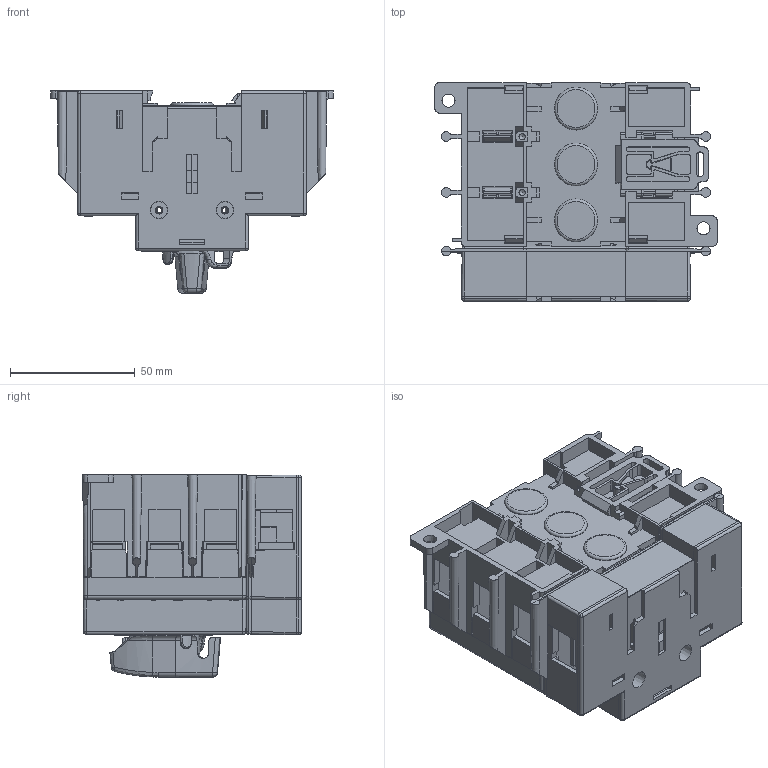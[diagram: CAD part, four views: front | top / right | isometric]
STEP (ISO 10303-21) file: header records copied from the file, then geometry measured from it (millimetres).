
FILE_DESCRIPTION((''),'2;1');
FILE_NAME('Z:\PROGETTI INVENTOR\DIEGO\4 COMMERCIALE - PRODUZIONE - INFORMATIVA\MATERIALE DI COSTRUZIONE\BLOCCHI SOLIDI 2013\BLOCCHI SOLIDI SD3\BLOCCO SD3 4P 2013.stp','2013-02-20T11:11:08',('diego'),(''),'Autodesk Inventor 2013','Autodesk Inventor 2013','');
FILE_SCHEMA(('AUTOMOTIVE_DESIGN { 1 0 10303 214 1 1 1 1 }'));
Length unit declared in the file: millimetre
Products named in the file (1): BLOCCO SD3 4P 2013
Bounding box: 113.2 x 87.55 x 81.05 mm (x, y, z)
Volume: 144459.5 mm3; surface area: 174814.7 mm2
Topology: 3 solids, 3 shells, 2612 faces, 7263 edges, 4653 vertices
Faces by surface type: plane 2094, cylinder 266, cone 133, bspline 53, sphere 38, torus 28
Full cylindrical faces by diameter (mm): 0.6 x1, 1.2 x2, 2.2 x4, 2.5 x2, 3.1 x2, 3.2 x1, 5.4 x1, 6 x2, 12.7 x1, 16.1 x1, 18.1 x1, 24 x1
Entity records: 86930 total; most frequent: CARTESIAN_POINT 17989, ORIENTED_EDGE 14272, DIRECTION 12869, EDGE_CURVE 7136, VECTOR 5995, LINE 5995, VERTEX_POINT 4627, AXIS2_PLACEMENT_3D 3437
